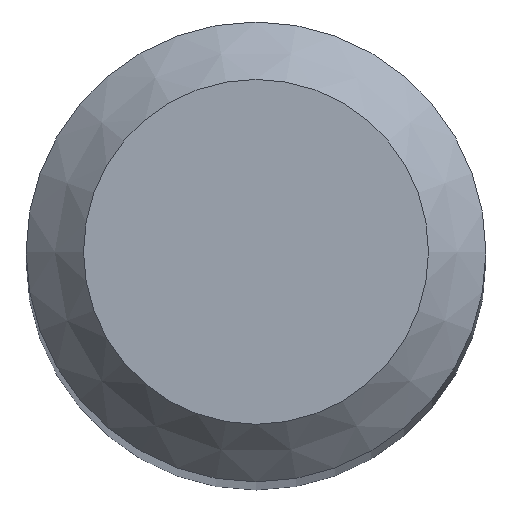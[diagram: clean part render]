
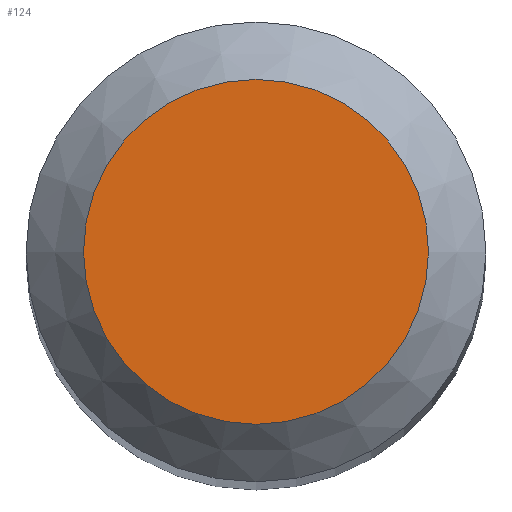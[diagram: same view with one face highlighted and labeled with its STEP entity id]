
A CAD part, top view. The second image highlights one B-rep face of the part: STEP entity #124.
In plain terms, the highlighted planar face has unit normal (0, 0, 1).
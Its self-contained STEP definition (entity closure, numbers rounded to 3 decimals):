
#108=CARTESIAN_POINT('',(1.5,0.0,50.0));
#109=DIRECTION('',(0.0,0.0,1.0));
#110=DIRECTION('',(1.0,0.0,0.0));
#111=AXIS2_PLACEMENT_3D('',#108,#109,#110);
#112=PLANE('',#111);
#113=CARTESIAN_POINT('',(-1.5,0.0,50.0));
#114=VERTEX_POINT('',#113);
#115=CARTESIAN_POINT('',(0.0,0.0,50.0));
#116=DIRECTION('',(0.0,0.0,-1.0));
#117=DIRECTION('',(-1.0,0.0,0.0));
#118=AXIS2_PLACEMENT_3D('',#115,#116,#117);
#119=CIRCLE('',#118,1.5);
#120=EDGE_CURVE('',#114,#114,#119,.T.);
#121=ORIENTED_EDGE('',*,*,#120,.F.);
#122=EDGE_LOOP('',(#121));
#123=FACE_OUTER_BOUND('',#122,.T.);
#124=ADVANCED_FACE('',(#123),#112,.T.);
